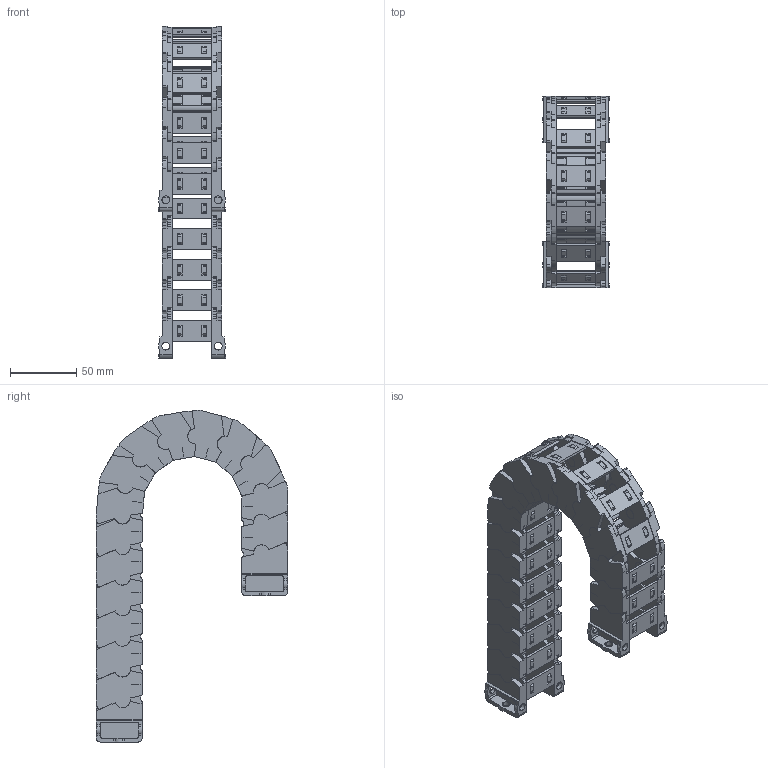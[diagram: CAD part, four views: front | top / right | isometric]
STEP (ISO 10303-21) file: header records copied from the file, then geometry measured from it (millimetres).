
FILE_DESCRIPTION((''),'2;1');
FILE_NAME('JY-25X30-R55_ASM','2023-02-08T14:40:25',('admin'),(''),'CREO PARAMETRIC BY PTC INC, 2021164','CREO PARAMETRIC BY PTC INC, 2021164','');
FILE_SCHEMA(('CONFIG_CONTROL_DESIGN','GEOMETRIC_VALIDATION_PROPERTIES_MIM'));
Length unit declared in the file: millimetre
Products named in the file (11): 25XL-L; 25-35XL-YP; 25XL-R; ASM0001_ASM; 25-LTT-A-L; 25-LTT-A-R; 25XL-LTT-A_ASM; 25-LTT-B-L; 25-LTT-B-R; 25XL-LTT-B_ASM; JY-25X30-R55_ASM
Assembly tree (29 placements, depth 3):
  JY-25X30-R55_ASM
    ASM0001_ASM  x15
      25XL-L
      25-35XL-YP
      25XL-R
    25XL-LTT-A_ASM
      25-LTT-A-L
      25-35XL-YP  x2
      25-LTT-A-R
    25XL-LTT-B_ASM
      25-LTT-B-L
      25-35XL-YP  x2
      25-LTT-B-R
Bounding box: 50.67 x 144.67 x 250.78 mm (x, y, z)
Volume: 239721.9 mm3; surface area: 182179.7 mm2
Topology: 68 solids, 83 shells, 3544 faces, 10581 edges, 7156 vertices
Faces by surface type: plane 2605, cylinder 909, cone 30
Entity records: 24023 total; most frequent: CARTESIAN_POINT 3114, DIRECTION 3009, ORIENTED_EDGE 2962, EDGE_CURVE 1483, PRESENTATION_STYLE_ASSIGNMENT 1413, STYLED_ITEM 1381, VECTOR 1053, LINE 1053
